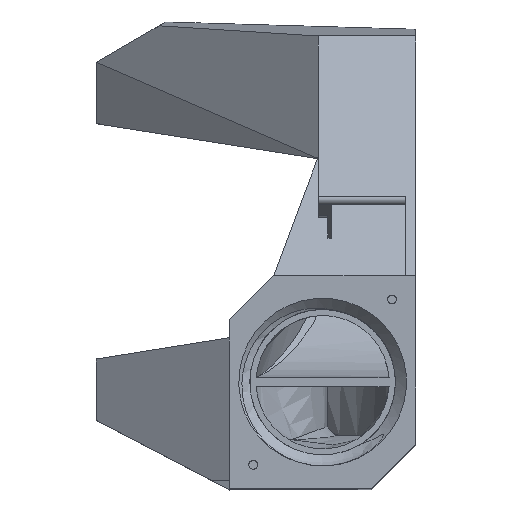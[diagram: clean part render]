
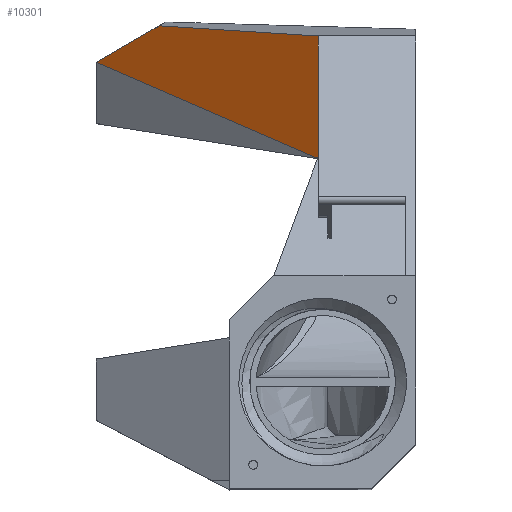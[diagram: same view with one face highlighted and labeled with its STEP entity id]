
A CAD part, top view. The second image highlights one B-rep face of the part: STEP entity #10301.
In plain terms, the highlighted planar face has unit normal (-0.6, 0, 0.8).
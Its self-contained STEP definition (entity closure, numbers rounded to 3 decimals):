
#1451=ORIENTED_EDGE('',*,*,#4530,.F.);
#1452=ORIENTED_EDGE('',*,*,#4429,.F.);
#1453=ORIENTED_EDGE('',*,*,#4531,.F.);
#1454=ORIENTED_EDGE('',*,*,#4532,.F.);
#4429=EDGE_CURVE('',#5968,#5969,#6897,.T.);
#4530=EDGE_CURVE('',#5969,#6044,#6984,.T.);
#4531=EDGE_CURVE('',#6046,#5968,#6985,.T.);
#4532=EDGE_CURVE('',#6044,#6046,#6986,.T.);
#5968=VERTEX_POINT('',#16143);
#5969=VERTEX_POINT('',#16145);
#6044=VERTEX_POINT('',#16331);
#6046=VERTEX_POINT('',#16339);
#6897=LINE('',#16144,#7919);
#6984=LINE('',#16337,#8006);
#6985=LINE('',#16338,#8007);
#6986=LINE('',#16340,#8008);
#7919=VECTOR('',#12227,1000.);
#8006=VECTOR('',#12372,1000.);
#8007=VECTOR('',#12373,1000.);
#8008=VECTOR('',#12374,1000.);
#8625=EDGE_LOOP('',(#1451,#1452,#1453,#1454));
#9274=FACE_BOUND('',#8625,.T.);
#9861=PLANE('',#10997);
#10301=ADVANCED_FACE('',(#9274),#9861,.F.);
#10997=AXIS2_PLACEMENT_3D('',#16336,#12370,#12371);
#12227=DIRECTION('',(0.,-1.,0.));
#12370=DIRECTION('',(0.6,0.,-0.8));
#12371=DIRECTION('',(0.8,0.,0.6));
#12372=DIRECTION('',(-0.755,0.329,-0.566));
#12373=DIRECTION('',(0.799,-0.052,0.599));
#12374=DIRECTION('',(0.726,0.419,0.545));
#16143=CARTESIAN_POINT('',(525.05,-27.413,-40.998));
#16144=CARTESIAN_POINT('',(525.05,-24.776,-40.998));
#16145=CARTESIAN_POINT('',(525.05,-41.237,-40.998));
#16331=CARTESIAN_POINT('',(500.05,-30.336,-59.747));
#16336=CARTESIAN_POINT('',(525.05,-24.776,-40.998));
#16337=CARTESIAN_POINT('',(525.05,-41.237,-40.998));
#16338=CARTESIAN_POINT('',(509.575,-26.402,-52.604));
#16339=CARTESIAN_POINT('',(507.139,-26.243,-54.431));
#16340=CARTESIAN_POINT('',(522.347,-17.462,-43.025));
